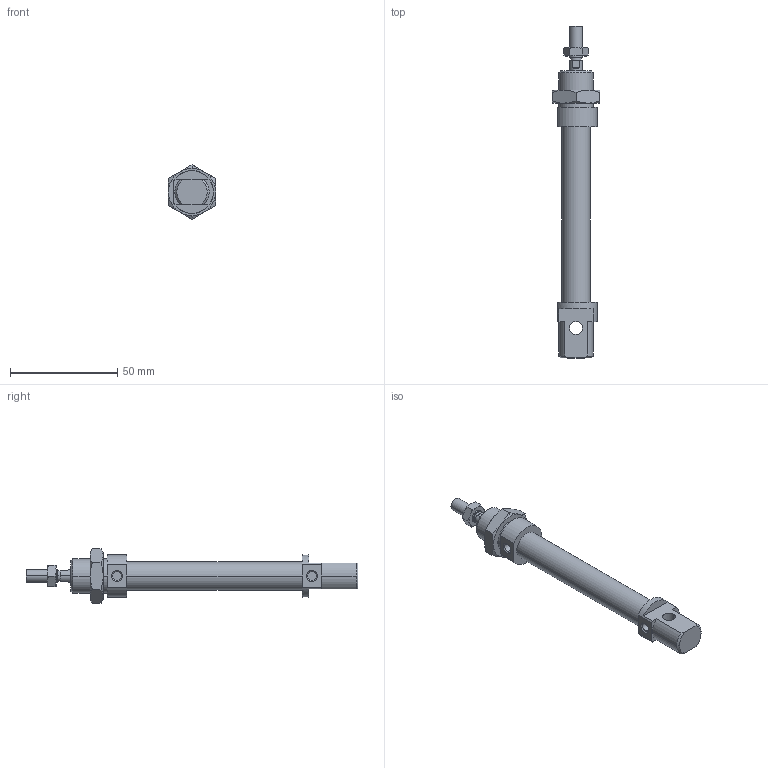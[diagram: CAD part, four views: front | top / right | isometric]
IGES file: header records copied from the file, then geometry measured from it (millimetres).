
Global section: file name: No Iges File Name specified; native system: AutoDesk Inventor R6.0; preprocessor: AutoDesk Inventor Iges Exporter R6.0; author: No Author specified; organization: No Organization specified; date: 20030407.191014; units: millimetre
Bounding box: 22 x 155 x 25.4 mm (x, y, z)
Volume: 24273.7 mm3; surface area: 12163.7 mm2
Topology: 4 solids, 4 shells, 121 faces, 268 edges, 162 vertices
Faces by surface type: plane 39, cone 38, bspline 20, cylinder 18, revolution 6
